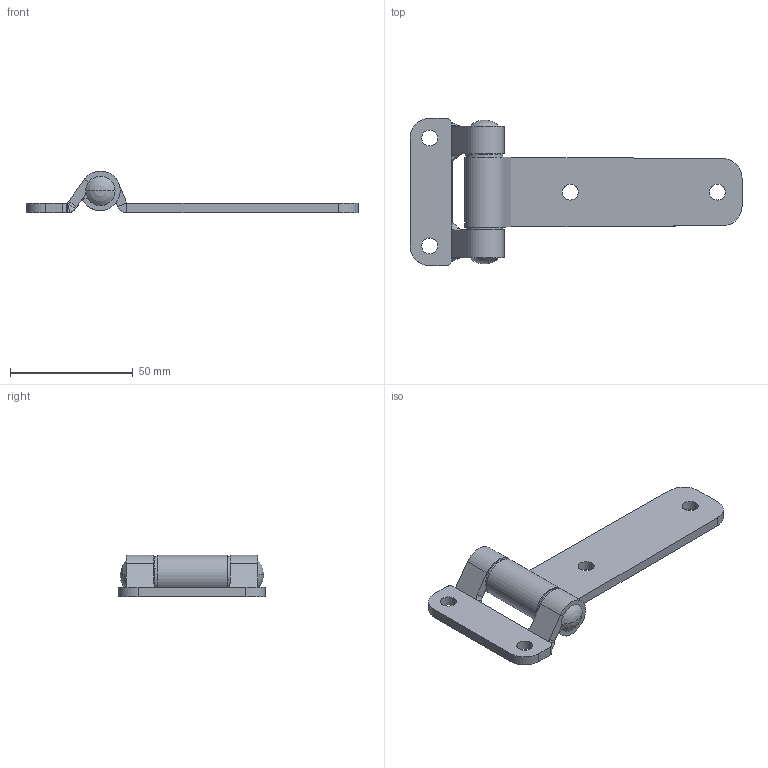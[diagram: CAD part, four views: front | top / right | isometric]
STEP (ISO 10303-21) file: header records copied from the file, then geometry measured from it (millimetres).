
FILE_DESCRIPTION (( 'STEP AP214' ), '1' );
FILE_NAME ('3.ST56.002.STEP', '2010-02-22T18:42:55', ( '£ukaszC' ), ( '' ), 'SwSTEP 2.0', 'SolidWorks 2008', '' );
FILE_SCHEMA (( 'AUTOMOTIVE_DESIGN' ));
Length unit declared in the file: millimetre
Products named in the file (5): 3.ST56.002; Czêœæ4; Czêœæ1; Czêœæ3; Czêœæ2
Assembly tree (5 placements, depth 2):
  3.ST56.002
    Czêœæ1
    Czêœæ3  x2
    Czêœæ4
    Czêœæ2
Bounding box: 135.32 x 60 x 17.04 mm (x, y, z)
Volume: 26671.9 mm3; surface area: 17896.3 mm2
Topology: 5 solids, 5 shells, 98 faces, 226 edges, 138 vertices
Faces by surface type: plane 42, cylinder 40, bspline 8, cone 4, torus 4
Entity records: 2709 total; most frequent: CARTESIAN_POINT 592, DIRECTION 415, ORIENTED_EDGE 400, EDGE_CURVE 200, AXIS2_PLACEMENT_3D 161, VERTEX_POINT 124, EDGE_LOOP 100, VECTOR 93
